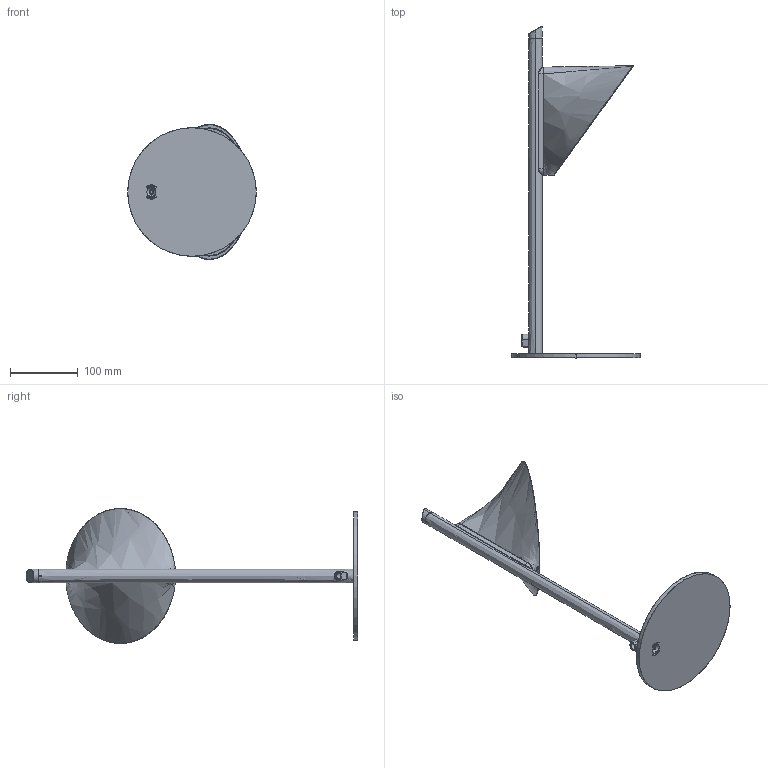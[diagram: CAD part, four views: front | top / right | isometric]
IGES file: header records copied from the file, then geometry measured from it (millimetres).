
Start section: SolidWorks IGES file using analytic representation for surfaces
Global section: file name: \\STORAGE\Tecnico Condiviso\1 FASCICOLI TECNICI\AXO DESIGN\AXO044-ORCHID\CE\20170620-ORCHID\SW\LTORCHIDXXXXLED\LTORCHIDXXXXLED-3D.IGS; native system: SolidWorks 2019; preprocessor: SolidWorks 2019; author: tecnico3; date: 191204.112307; units: millimetre
Bounding box: 190 x 490.85 x 199.59 mm (x, y, z)
Surface area: 275753.7 mm2 (no closed solid volume)
Topology: 0 solids, 0 shells, 401 faces, 5848 edges, 5814 vertices
Faces by surface type: revolution 222, bspline 179
